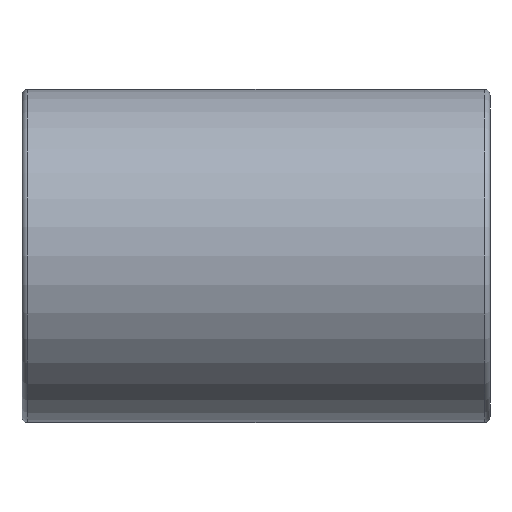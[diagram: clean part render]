
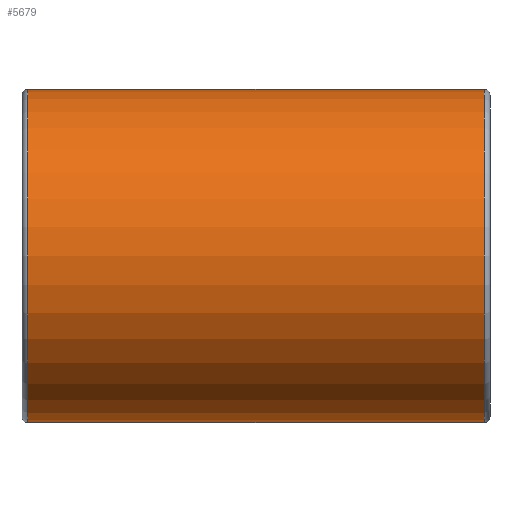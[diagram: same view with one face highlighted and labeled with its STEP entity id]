
A CAD part, left-side view. The second image highlights one B-rep face of the part: STEP entity #5679.
In plain terms, the highlighted cylindrical face has radius 8.9 mm (diameter 17.8 mm), a partial arc.
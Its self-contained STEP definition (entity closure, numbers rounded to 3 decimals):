
#419 = ORIENTED_EDGE ( 'NONE', *, *, #10341, .F. ) ;
#636 = VERTEX_POINT ( 'NONE', #4848 ) ;
#1155 = DIRECTION ( 'NONE',  ( 0., 0., -1. ) ) ;
#2030 = VECTOR ( 'NONE', #13424, 1000. ) ;
#2408 = CARTESIAN_POINT ( 'NONE',  ( -21.758, 26.508, 0. ) ) ;
#2518 = VERTEX_POINT ( 'NONE', #10601 ) ;
#3300 = CIRCLE ( 'NONE', #21665, 8.9 ) ;
#3514 = ORIENTED_EDGE ( 'NONE', *, *, #17823, .T. ) ;
#3992 = FACE_OUTER_BOUND ( 'NONE', #21089, .T. ) ;
#4647 = DIRECTION ( 'NONE',  ( 0., -1., 0. ) ) ;
#4848 = CARTESIAN_POINT ( 'NONE',  ( -21.758, 2.108, 8.9 ) ) ;
#5679 = ADVANCED_FACE ( 'NONE', ( #3992 ), #13223, .T. ) ;
#6543 = CARTESIAN_POINT ( 'NONE',  ( -21.758, 26.808, -8.9 ) ) ;
#6925 = CARTESIAN_POINT ( 'NONE',  ( -21.758, 2.108, -8.9 ) ) ;
#7305 = DIRECTION ( 'NONE',  ( 0., 1., 0. ) ) ;
#8465 = VERTEX_POINT ( 'NONE', #11518 ) ;
#8764 = LINE ( 'NONE', #10347, #11694 ) ;
#8804 = LINE ( 'NONE', #6543, #2030 ) ;
#10341 = EDGE_CURVE ( 'NONE', #2518, #636, #8764, .T. ) ;
#10347 = CARTESIAN_POINT ( 'NONE',  ( -21.758, 26.808, 8.9 ) ) ;
#10601 = CARTESIAN_POINT ( 'NONE',  ( -21.758, 26.508, 8.9 ) ) ;
#10775 = DIRECTION ( 'NONE',  ( 0., -1., 0. ) ) ;
#11232 = AXIS2_PLACEMENT_3D ( 'NONE', #14077, #7305, #21270 ) ;
#11518 = CARTESIAN_POINT ( 'NONE',  ( -21.758, 26.508, -8.9 ) ) ;
#11647 = CARTESIAN_POINT ( 'NONE',  ( -21.758, 26.808, 0. ) ) ;
#11694 = VECTOR ( 'NONE', #15632, 1000. ) ;
#13223 = CYLINDRICAL_SURFACE ( 'NONE', #21511, 8.9 ) ;
#13424 = DIRECTION ( 'NONE',  ( 0., -1., 0. ) ) ;
#14077 = CARTESIAN_POINT ( 'NONE',  ( -21.758, 2.108, 0. ) ) ;
#14109 = CIRCLE ( 'NONE', #11232, 8.9 ) ;
#14265 = DIRECTION ( 'NONE',  ( 0., 0., 1. ) ) ;
#14785 = ORIENTED_EDGE ( 'NONE', *, *, #17436, .T. ) ;
#15296 = VERTEX_POINT ( 'NONE', #6925 ) ;
#15632 = DIRECTION ( 'NONE',  ( 0., -1., 0. ) ) ;
#17436 = EDGE_CURVE ( 'NONE', #15296, #636, #14109, .T. ) ;
#17823 = EDGE_CURVE ( 'NONE', #2518, #8465, #3300, .T. ) ;
#21089 = EDGE_LOOP ( 'NONE', ( #419, #3514, #21103, #14785 ) ) ;
#21103 = ORIENTED_EDGE ( 'NONE', *, *, #22113, .T. ) ;
#21270 = DIRECTION ( 'NONE',  ( 0., 0., 1. ) ) ;
#21511 = AXIS2_PLACEMENT_3D ( 'NONE', #11647, #4647, #1155 ) ;
#21665 = AXIS2_PLACEMENT_3D ( 'NONE', #2408, #10775, #14265 ) ;
#22113 = EDGE_CURVE ( 'NONE', #8465, #15296, #8804, .T. ) ;
